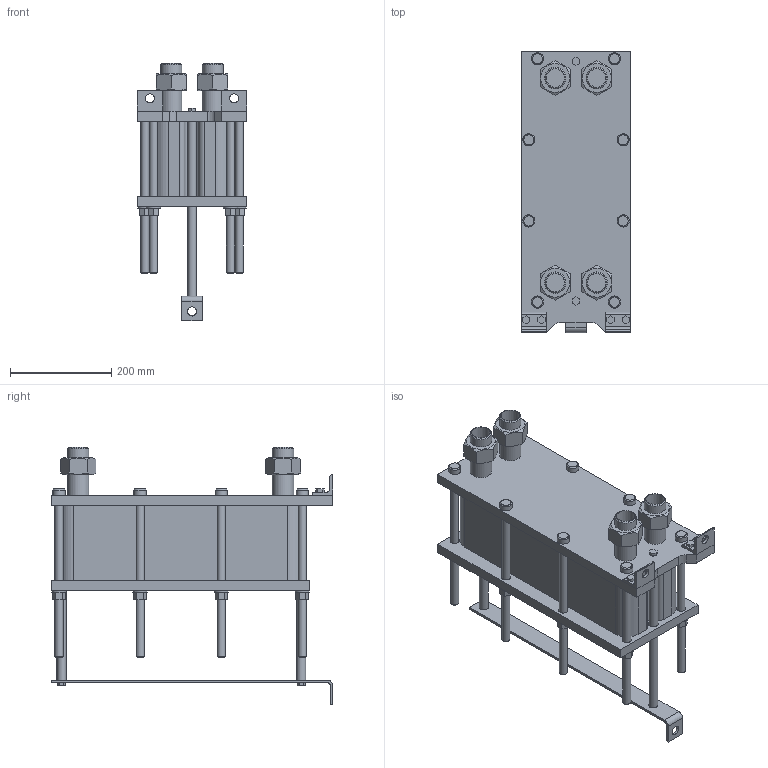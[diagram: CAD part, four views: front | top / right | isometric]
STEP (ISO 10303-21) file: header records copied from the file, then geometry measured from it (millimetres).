
FILE_DESCRIPTION(/* description */ (''),/* implementation_level */ '2;1');
FILE_NAME(/* name */ 'C:\Users\zhuro\Desktop\ENCO\TO\ЭН-004\ЭН-0,5-004-48-1.stp',/* time_stamp */ '2022-06-06T10:46:56+03:00',/* author */ ('zhuro'),/* organization */ (''),/* preprocessor_version */ 'ST-DEVELOPER v18.1',/* originating_system */ 'Autodesk Inventor 2022',/* authorisation */ '');
FILE_SCHEMA (('AUTOMOTIVE_DESIGN { 1 0 10303 214 3 1 1 }'));
Length unit declared in the file: millimetre
Products named in the file (1): ЭН-0,5-004-48-1
Bounding box: 216 x 555 x 507.4 mm (x, y, z)
Volume: 16731408.7 mm3; surface area: 1281161.4 mm2
Topology: 40 solids, 40 shells, 403 faces, 865 edges, 574 vertices
Faces by surface type: plane 272, cylinder 103, cone 28
Full cylindrical faces by diameter (mm): 10 x4, 16 x16, 18 x29, 20 x2, 24 x8, 28 x8, 36.3 x5, 42.3 x9
Entity records: 11137 total; most frequent: CARTESIAN_POINT 1939, DIRECTION 1879, ORIENTED_EDGE 1730, EDGE_CURVE 865, AXIS2_PLACEMENT_3D 658, VERTEX_POINT 574, LINE 563, VECTOR 563
